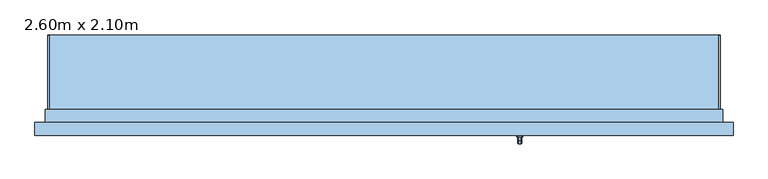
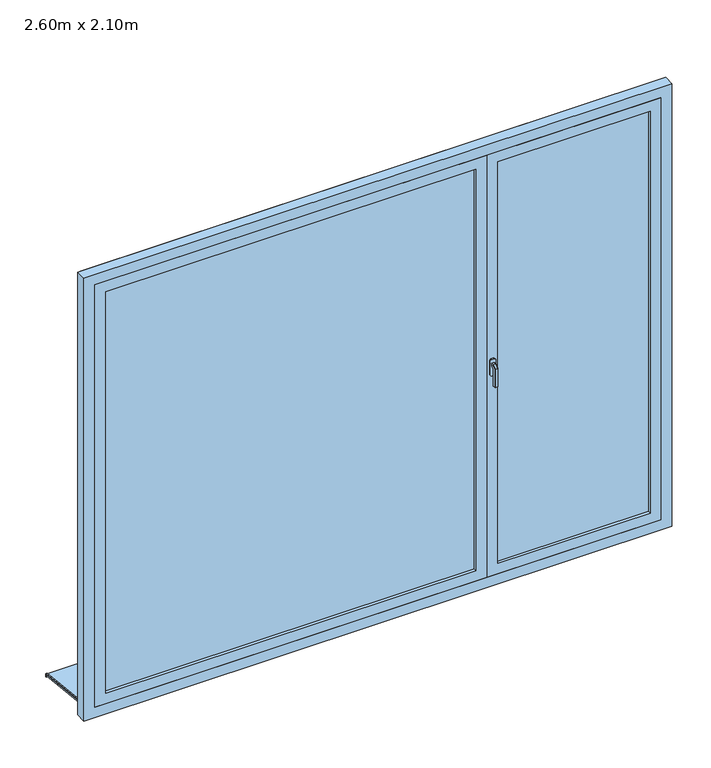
"""IFC4 building model written with IfcOpenShell, lengths in millimetres: window geometry, 285-porte-fenetre-linteau-droit-tierce-parametrique-80 : 2.60m x 2.10m."""

from ifc_helpers import new_model, si_unit, point, frame, frame_2d, origin, place, context, project, spatial, polyline, circle_curve, trimmed, segment, composite_curve, outline, extrude, faceted_brep, source, transform, mapped, element, save


def window_2_60m_x_2_10m_1177ca68(model_context):
    return source(origin(), model_context, "Body", "SolidModel", [
        faceted_brep([(1230.6460097, -196.0, 1122.0339292), (1232.0339292, -196.0, 1120.6460097), (1232.0339292, -196.0, 1109.3323012), (1230.6676988, -196.0, 1107.9660708), (1219.3323012, -196.0, 1107.9660708), (1217.9660708, -196.0, 1109.3323012), (1217.9660708, -196.0, 1120.6460097), (1219.3539903, -196.0, 1122.0339292), (1230.6460097, -208.9135489, 1122.0339292), (1232.0339292, -208.3386538, 1120.6460097), (1232.0339292, -221.6460097, 1107.3386538), (1232.0339292, -221.6460097, 1020.0), (1232.0339292, -210.3323012, 1020.0), (1232.0339292, -210.3323012, 1102.6523623), (1232.0339292, -203.6523623, 1109.3323012), (1230.6676988, -203.0864511, 1107.9660708), (1219.3323012, -203.0864511, 1107.9660708), (1217.9660708, -203.6523623, 1109.3323012), (1217.9660708, -210.3323012, 1102.6523623), (1217.9660708, -210.3323012, 1020.0), (1217.9660708, -221.6460097, 1020.0), (1217.9660708, -221.6460097, 1107.3386538), (1217.9660708, -208.3386538, 1120.6460097), (1219.3539903, -208.9135489, 1122.0339292), (1230.6460097, -223.0339292, 1107.9135489), (1230.6676988, -208.9660708, 1102.0864511), (1219.3323012, -208.9660708, 1102.0864511), (1219.3539903, -223.0339292, 1107.9135489), (1230.6460097, -223.0339292, 1020.0), (1219.3539903, -223.0339292, 1020.0), (1219.3323012, -208.9660708, 1020.0), (1230.6676988, -208.9660708, 1020.0)], [[[0, 1, 2, 3, 4, 5, 6, 7]], [[1, 0, 8, 9]], [[2, 1, 9, 10, 11, 12, 13, 14]], [[3, 2, 14, 15]], [[4, 3, 15, 16]], [[5, 4, 16, 17]], [[6, 5, 17, 18, 19, 20, 21, 22]], [[7, 6, 22, 23]], [[0, 7, 23, 8]], [[9, 8, 24, 10]], [[15, 14, 13, 25]], [[16, 15, 25, 26]], [[17, 16, 26, 18]], [[23, 22, 21, 27]], [[8, 23, 27, 24]], [[28, 29, 20, 19, 30, 31, 12, 11]], [[10, 24, 28, 11]], [[25, 13, 12, 31]], [[26, 25, 31, 30]], [[18, 26, 30, 19]], [[27, 21, 20, 29]], [[24, 27, 29, 28]]]),
        extrude(outline(polyline([(1140.0, 1232.0), (1140.0, 1218.0), (1135.0, 1213.0), (1065.0, 1213.0), (1060.0, 1218.0), (1060.0, 1232.0), (1065.0, 1237.0), (1135.0, 1237.0), (1140.0, 1232.0)])), frame((0.0, -196.0, 0.0), z_axis=(0.0, 1.0, 0.0), x_axis=(0.0, 0.0, 1.0)), (0.0, 0.0, 1.0), 6.0),
        extrude(outline(polyline([(200.0288776, 7.6698637), (200.0288776, -3.4083388), (195.0288776, -2.8828176), (195.0288776, 2.9401731), (-110.0, 35.0), (-110.0, 50.0), (-105.0, 50.0), (-105.0, 39.7296906), (200.0288776, 7.6698637)])), frame((-600.0, 0.0, 0.0), z_axis=(1.0, 0.0, 0.0), x_axis=(0.0, 1.0, 0.0)), (0.0, 0.0, 1.0), 2600.0),
        extrude(outline(composite_curve([segment(polyline([(200.0288776, 7.6698637), (-105.0, 39.7296906), (-105.0, 44.757232), (196.4469915, 13.0738765)]), True, "CONTINUOUS"), segment(trimmed(circle_curve(frame_2d((196.0288776, 9.0957889)), 4.0), [point((196.4469915, 13.0738765))], [point((200.0288776, 9.0957889))], False, "CARTESIAN"), True, "CONTINUOUS"), segment(polyline([(200.0288776, 9.0957889), (200.0288776, 7.6698637)]), True, "CONTINUOUS")], self_intersect=False)), frame((-600.0, 0.0, 0.0), z_axis=(1.0, 0.0, 0.0), x_axis=(0.0, 1.0, 0.0)), (0.0, 0.0, 1.0), 5.0),
        extrude(outline(composite_curve([segment(polyline([(200.0288776, 7.6698637), (-105.0, 39.7296906), (-105.0, 44.757232), (196.4469915, 13.0738765)]), True, "CONTINUOUS"), segment(trimmed(circle_curve(frame_2d((196.0288776, 9.0957889)), 4.0), [point((196.4469915, 13.0738765))], [point((200.0288776, 9.0957889))], False, "CARTESIAN"), True, "CONTINUOUS"), segment(polyline([(200.0288776, 9.0957889), (200.0288776, 7.6698637)]), True, "CONTINUOUS")], self_intersect=False)), frame((1995.0, 0.0, 0.0), z_axis=(1.0, 0.0, 0.0), x_axis=(0.0, 1.0, 0.0)), (0.0, 0.0, 1.0), 5.0),
        extrude(outline(polyline([(85.0, 1200.0), (2135.0, 1200.0), (2135.0, -600.0), (85.0, -600.0), (85.0, 1200.0)]), holes=[polyline([(135.0, -550.0), (2085.0, -550.0), (2085.0, 1150.0), (135.0, 1150.0), (135.0, -550.0)])]), frame((0.0, -190.0, 0.0), z_axis=(0.0, 1.0, 0.0), x_axis=(0.0, 0.0, 1.0)), (0.0, 0.0, 1.0), 40.0),
        extrude(outline(polyline([(1250.0, -164.0), (1950.0, -164.0), (1950.0, -176.0), (1250.0, -176.0), (1250.0, -164.0)])), frame((0.0, 0.0, 135.0), z_axis=(0.0, 0.0, 1.0), x_axis=(1.0, 0.0, 0.0)), (0.0, 0.0, 1.0), 1950.0),
        extrude(outline(polyline([(-550.0, -164.0), (1150.0, -164.0), (1150.0, -176.0), (-550.0, -176.0), (-550.0, -164.0)])), frame((0.0, 0.0, 135.0), z_axis=(0.0, 0.0, 1.0), x_axis=(1.0, 0.0, 0.0)), (0.0, 0.0, 1.0), 1950.0),
        extrude(outline(polyline([(85.0, 2000.0), (2135.0, 2000.0), (2135.0, 1200.0), (85.0, 1200.0), (85.0, 2000.0)]), holes=[polyline([(135.0, 1250.0), (2085.0, 1250.0), (2085.0, 1950.0), (135.0, 1950.0), (135.0, 1250.0)])]), frame((0.0, -190.0, 0.0), z_axis=(0.0, 1.0, 0.0), x_axis=(0.0, 0.0, 1.0)), (0.0, 0.0, 1.0), 40.0),
        faceted_brep([(-650.0, -190.0, 35.0), (-650.0, -140.0, 35.0), (-600.0, -140.0, 35.0), (-600.0, -110.0, 35.0), (2000.0, -110.0, 35.0), (2000.0, -140.0, 35.0), (2050.0, -140.0, 35.0), (2050.0, -190.0, 35.0), (-650.0, -190.0, 2185.0), (-650.0, -140.0, 2185.0), (2050.0, -140.0, 2185.0), (2000.0, -140.0, 74.3761425), (-600.0, -140.0, 74.3761425), (-585.0, -140.0, 2120.0), (-585.0, -140.0, 100.0), (1985.0, -140.0, 100.0), (1985.0, -140.0, 2120.0), (-600.0, -90.0, 60.9786829), (-600.0, -90.0, 45.0), (-600.0, -100.0, 45.0), (-600.0, -100.0, 50.0), (-600.0, -110.0, 50.0), (2000.0, -110.0, 50.0), (2000.0, -100.0, 50.0), (2000.0, -100.0, 45.0), (2000.0, -90.0, 45.0), (2000.0, -90.0, 60.9786829), (2050.0, -190.0, 2185.0), (2000.0, -190.0, 2135.0), (2000.0, -190.0, 85.0), (-600.0, -190.0, 85.0), (-600.0, -190.0, 2135.0), (-585.0, -150.0, 2120.0), (-585.0, -150.0, 100.0), (1985.0, -150.0, 100.0), (1985.0, -150.0, 2120.0), (2000.0, -150.0, 2135.0), (-600.0, -150.0, 2135.0), (-600.0, -150.0, 85.0), (2000.0, -150.0, 85.0)], [[[0, 1, 2, 3, 4, 5, 6, 7]], [[1, 0, 8, 9]], [[1, 9, 10, 6, 5, 11, 12, 2], [13, 14, 15, 16]], [[12, 17, 18, 19, 20, 21, 3, 2]], [[3, 21, 22, 4]], [[4, 22, 23, 24, 25, 26, 11, 5]], [[6, 10, 27, 7]], [[0, 7, 27, 8], [28, 29, 30, 31]], [[13, 32, 33, 14]], [[33, 34, 15, 14]], [[35, 16, 15, 34]], [[17, 12, 11, 26]], [[36, 37, 38, 39], [32, 35, 34, 33]], [[38, 37, 31, 30]], [[30, 29, 39, 38]], [[28, 36, 39, 29]], [[18, 17, 26, 25]], [[19, 18, 25, 24]], [[20, 19, 24, 23]], [[21, 20, 23, 22]], [[13, 16, 35, 32]], [[37, 36, 28, 31]], [[10, 9, 8, 27]]]),
        extrude(outline(polyline([(35.0, -610.0), (35.0, -600.0), (2135.0, -600.0), (2135.0, 2000.0), (35.0, 2000.0), (35.0, 2010.0), (2145.0, 2010.0), (2145.0, -610.0), (35.0, -610.0)])), frame((0.0, -140.0, 0.0), z_axis=(0.0, 1.0, 0.0), x_axis=(0.0, 0.0, 1.0)), (0.0, 0.0, 1.0), 50.0),
        extrude(outline(polyline([(1220.0, -142.0), (1220.0, -150.0), (1180.0, -150.0), (1180.0, -142.0), (1220.0, -142.0)])), frame((0.0, 0.0, 100.0), z_axis=(0.0, 0.0, 1.0), x_axis=(1.0, 0.0, 0.0)), (0.0, 0.0, 1.0), 2020.0),
    ])


if __name__ == "__main__":
    model = new_model("IFC4")
    model_context = context("Model", 3, world=origin())
    ifc_project = project(units=[si_unit("LENGTHUNIT", "METRE", prefix="MILLI")], contexts=[model_context])
    site = spatial("IfcSite", under=ifc_project)
    building = spatial("IfcBuilding", under=site)
    placement = place(None, origin())
    window_2_60m_x_2_10m_shape = window_2_60m_x_2_10m_1177ca68(model_context)
    element("IfcWindow", 1, ObjectType="285-porte-fenetre-linteau-droit-tierce-parametrique-80 : 2.60m x 2.10m", at=placement, inside=building, context=model_context, shape_type="MappedRepresentation", body=[
        mapped(window_2_60m_x_2_10m_shape, transform((0.0, 0.0, 0.0), x_axis=(1.0, 0.0, 0.0), y_axis=(0.0, 1.0, 0.0), z_axis=(0.0, 0.0, 1.0))),
    ])
    save(model, "model.ifc")
